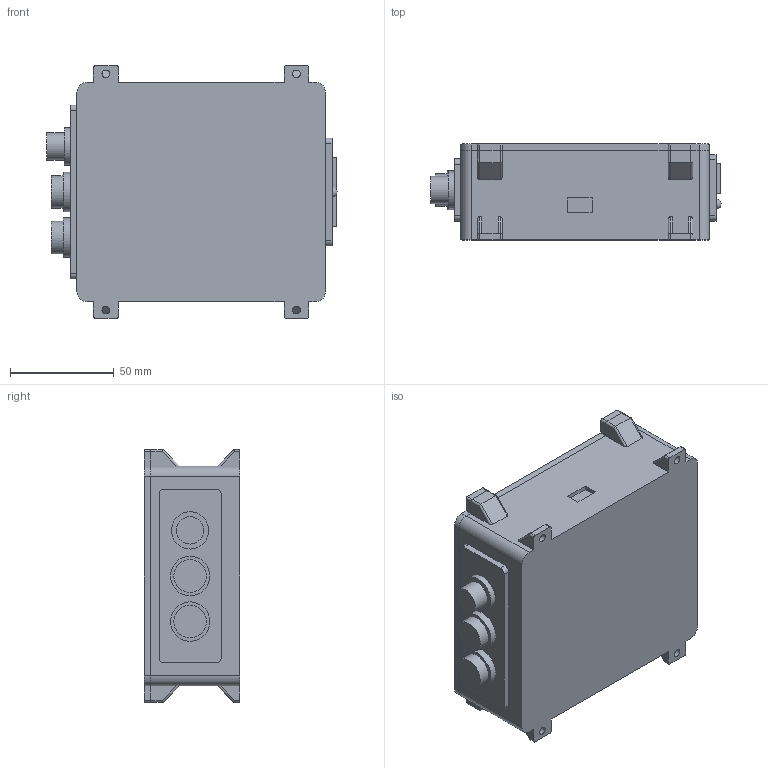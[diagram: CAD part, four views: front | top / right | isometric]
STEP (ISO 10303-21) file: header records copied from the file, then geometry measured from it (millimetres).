
FILE_DESCRIPTION(/* description */ (''),/* implementation_level */ '2;1');
FILE_NAME(/* name */ 'WidowX AI Controller Box Simple.step',/* time_stamp */ '2025-04-14T10:36:58-05:00',/* author */ (''),/* organization */ (''),/* preprocessor_version */ 'ST-DEVELOPER v20.1',/* originating_system */ 'Autodesk Translation Framework v14.4.0.0',/* authorisation */ '');
FILE_SCHEMA (('AUTOMOTIVE_DESIGN { 1 0 10303 214 3 1 1 }'));
Length unit declared in the file: millimetre
Products named in the file (4): dummy controller box; controller lid; 104107002_02; controller body
Assembly tree (3 placements, depth 3):
  dummy controller box
    controller lid
      104107002_02
    controller body
Bounding box: 140.12 x 46.17 x 122 mm (x, y, z)
Volume: 612890.9 mm3; surface area: 77819.1 mm2
Topology: 2 solids, 2 shells, 173 faces, 453 edges, 294 vertices
Faces by surface type: plane 102, cylinder 70, sphere 1
Full cylindrical faces by diameter (mm): 3.8 x8, 13.2 x1, 15.7 x2, 18 x1, 19 x2
Entity records: 5440 total; most frequent: DIRECTION 938, CARTESIAN_POINT 926, ORIENTED_EDGE 904, EDGE_CURVE 452, LINE 326, VECTOR 326, AXIS2_PLACEMENT_3D 306, VERTEX_POINT 294
